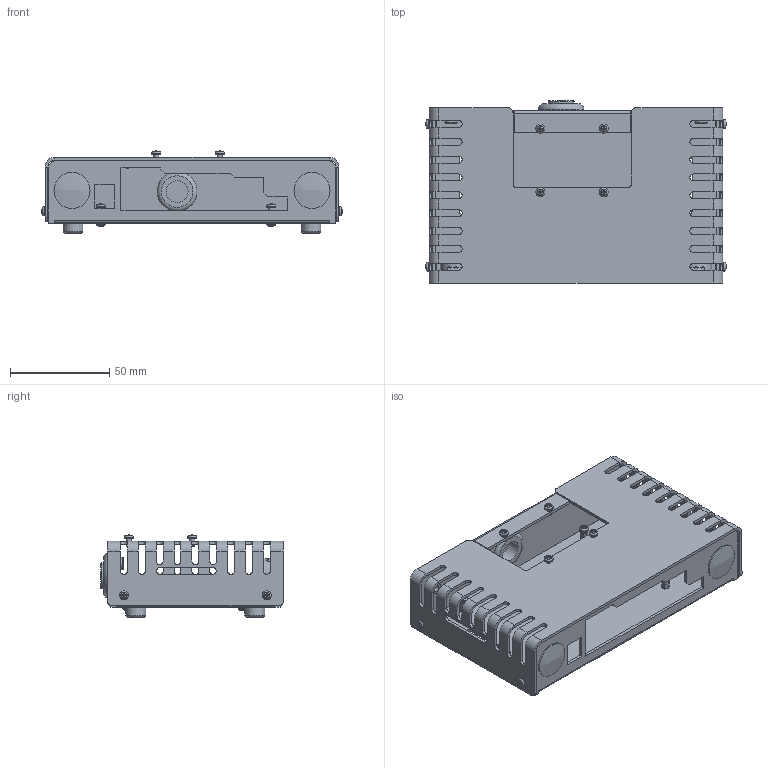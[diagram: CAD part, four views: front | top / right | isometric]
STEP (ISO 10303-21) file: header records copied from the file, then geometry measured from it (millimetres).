
FILE_DESCRIPTION(/* description */ (''),/* implementation_level */ '2;1');
FILE_NAME(/* name */ 'Open_stp ALcase Rev1 for Jetson Nano.step',/* time_stamp */ '2020-02-13T13:11:41+09:00',/* author */ (''),/* organization */ (''),/* preprocessor_version */ 'ST-DEVELOPER v18',/* originating_system */ 'Autodesk Translation Framework v8.12.0.6',/* authorisation */ '');
FILE_SCHEMA (('AUTOMOTIVE_DESIGN { 1 0 10303 214 3 1 1 }'));
Length unit declared in the file: millimetre
Products named in the file (10): Open_stp ALcase Rev1 for Jetson Nano; シャーシ; ゴム脚C-30-RK-10-black; スペーサASB-2605-3E; M16　ナット; グロメットC-30-SG-16A-EP-UL; カバー; ナベネジM2_6-4; ホールキャップ小CP-30-HP-1; ホールキャップ大CP-30-HP-7
Assembly tree (36 placements, depth 2):
  Open_stp ALcase Rev1 for Jetson Nano
    シャーシ
    ゴム脚C-30-RK-10-black  x4
    ナベネジM2_6-4  x19
    スペーサASB-2605-3E  x4
    M16　ナット  x2
    グロメットC-30-SG-16A-EP-UL
    カバー
    ホールキャップ小CP-30-HP-1  x2
    ホールキャップ大CP-30-HP-7  x2
Bounding box: 151.57 x 91.9 x 41.39 mm (x, y, z)
Volume: 57783.1 mm3; surface area: 83042 mm2
Topology: 36 solids, 36 shells, 1021 faces, 2836 edges, 1821 vertices
Faces by surface type: plane 609, cylinder 252, bspline 72, cone 35, torus 30, sphere 23
Full cylindrical faces by diameter (mm): 2.175 x16, 2.6 x19, 2.8 x4, 3 x4, 3.4 x2, 3.5 x4, 4.5 x19, 5 x4, 6.1 x2, 6.5 x2, 8 x2, 10 x4, 11 x2, 12.8 x2, 13 x1, 15.036 x2, 15.7 x2, 16 x1, 16.1 x3, 18.2 x2, 23 x1
Entity records: 16594 total; most frequent: CARTESIAN_POINT 3346, DIRECTION 2754, ORIENTED_EDGE 2700, EDGE_CURVE 1350, AXIS2_PLACEMENT_3D 947, LINE 860, VECTOR 860, VERTEX_POINT 859
